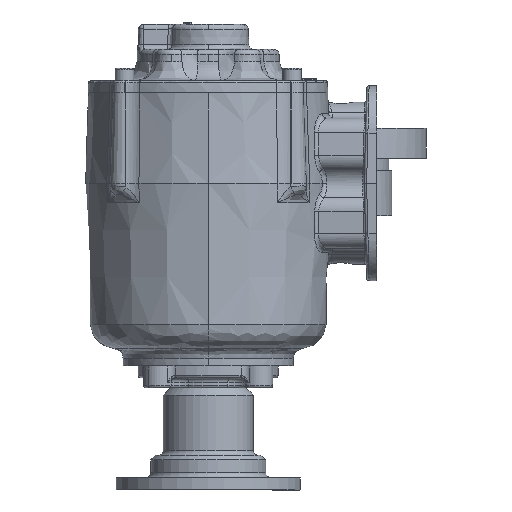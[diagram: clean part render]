
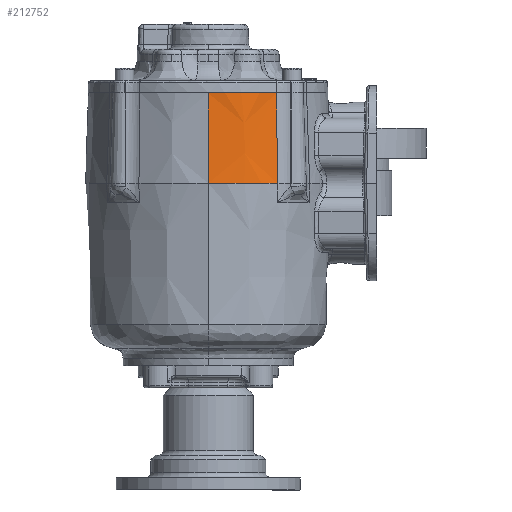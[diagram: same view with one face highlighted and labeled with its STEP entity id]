
A CAD part, left-side view. The second image highlights one B-rep face of the part: STEP entity #212752.
In plain terms, the highlighted conical face has half-angle 2 degrees and reference radius 78.232 mm.
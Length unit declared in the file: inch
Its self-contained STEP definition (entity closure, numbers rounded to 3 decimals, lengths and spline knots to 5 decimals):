
#3126 = CARTESIAN_POINT ( 'NONE',  ( -0.95267, 1.86514, 0.34734 ) ) ;
#5770 = CARTESIAN_POINT ( 'NONE',  ( -3.58087, 0.40873, 2.61184 ) ) ;
#9161 = CARTESIAN_POINT ( 'NONE',  ( -3.95359, 1.71328, 2.61184 ) ) ;
#32122 = DIRECTION ( 'NONE',  ( 1., 0., 0. ) ) ;
#35730 = VERTEX_POINT ( 'NONE', #222964 ) ;
#40351 = EDGE_LOOP ( 'NONE', ( #157098, #96952, #191431, #200472 ) ) ;
#40878 = DIRECTION ( 'NONE',  ( -1., 0., 0. ) ) ;
#43505 = CARTESIAN_POINT ( 'NONE',  ( -3.8961, 1.26118, 2.61184 ) ) ;
#44632 = CARTESIAN_POINT ( 'NONE',  ( -3.86172, 1.11281, 2.61184 ) ) ;
#72983 = DIRECTION ( 'NONE',  ( 0., 0., -1. ) ) ;
#74146 = CARTESIAN_POINT ( 'NONE',  ( -3.46942, 0.13709, 1.12355 ) ) ;
#92480 = VERTEX_POINT ( 'NONE', #170999 ) ;
#96952 = ORIENTED_EDGE ( 'NONE', *, *, #199139, .T. ) ;
#111925 = AXIS2_PLACEMENT_3D ( 'NONE', #3126, #72983, #40878 ) ;
#113262 = CARTESIAN_POINT ( 'NONE',  ( -3.94204, 1.56141, 2.61184 ) ) ;
#114397 = CARTESIAN_POINT ( 'NONE',  ( -3.95359, 1.86514, 2.61184 ) ) ;
#121348 = DIRECTION ( 'NONE',  ( 0., 0., -1. ) ) ;
#122753 = CARTESIAN_POINT ( 'NONE',  ( -4.03267, 1.86514, 0.34734 ) ) ;
#126742 = CARTESIAN_POINT ( 'NONE',  ( -3.44291, 0.14507, 1.87838 ) ) ;
#127470 = EDGE_CURVE ( 'NONE', #35730, #92480, #208458, .T. ) ;
#130436 = CARTESIAN_POINT ( 'NONE',  ( -3.7709, 0.82297, 2.61184 ) ) ;
#147611 = CARTESIAN_POINT ( 'NONE',  ( -3.41704, 0.15272, 2.61184 ) ) ;
#154664 = CARTESIAN_POINT ( 'NONE',  ( -4.03267, 1.86514, 0.34734 ) ) ;
#154800 = LINE ( 'NONE', #122753, #205529 ) ;
#157098 = ORIENTED_EDGE ( 'NONE', *, *, #127470, .T. ) ;
#162524 = CARTESIAN_POINT ( 'NONE',  ( -3.5037, 0.27743, 2.61184 ) ) ;
#164410 = VERTEX_POINT ( 'NONE', #154664 ) ;
#169154 = CARTESIAN_POINT ( 'NONE',  ( -3.49656, 0.12877, 0.34734 ) ) ;
#170999 = CARTESIAN_POINT ( 'NONE',  ( -3.95359, 1.86514, 2.61184 ) ) ;
#175084 = CARTESIAN_POINT ( 'NONE',  ( -0.95267, 1.86514, 0.34734 ) ) ;
#175925 = FACE_OUTER_BOUND ( 'NONE', #40351, .T. ) ;
#177555 = AXIS2_PLACEMENT_3D ( 'NONE', #175084, #121348, #32122 ) ;
#179799 = EDGE_CURVE ( 'NONE', #222117, #35730, #210144, .T. ) ;
#191431 = ORIENTED_EDGE ( 'NONE', *, *, #212254, .F. ) ;
#196516 = CARTESIAN_POINT ( 'NONE',  ( -3.41704, 0.15272, 2.61184 ) ) ;
#199139 = EDGE_CURVE ( 'NONE', #92480, #164410, #154800, .T. ) ;
#200472 = ORIENTED_EDGE ( 'NONE', *, *, #179799, .T. ) ;
#205529 = VECTOR ( 'NONE', #206328, 39.37008 ) ;
#206328 = DIRECTION ( 'NONE',  ( -0.035, 0., -0.999 ) ) ;
#208458 = B_SPLINE_CURVE_WITH_KNOTS ( 'NONE', 3,
 ( #147611, #162524, #5770, #217419, #130436, #44632, #43505, #113262, #9161, #114397 ),
 .UNSPECIFIED., .F., .F.,
 ( 4, 2, 2, 2, 4 ),
 ( 0., 0.25, 0.5, 0.75, 1. ),
 .UNSPECIFIED. ) ;
#210144 = B_SPLINE_CURVE_WITH_KNOTS ( 'NONE', 3,
 ( #211422, #74146, #126742, #196516 ),
 .UNSPECIFIED., .F., .F.,
 ( 4, 4 ),
 ( 0., 1. ),
 .UNSPECIFIED. ) ;
#210581 = CONICAL_SURFACE ( 'NONE', #111925, 3.08, 0.035 ) ;
#211422 = CARTESIAN_POINT ( 'NONE',  ( -3.49656, 0.12877, 0.34734 ) ) ;
#212254 = EDGE_CURVE ( 'NONE', #222117, #164410, #225110, .T. ) ;
#212752 = ADVANCED_FACE ( 'NONE', ( #175925 ), #210581, .T. ) ;
#217419 = CARTESIAN_POINT ( 'NONE',  ( -3.71447, 0.6815, 2.61184 ) ) ;
#222117 = VERTEX_POINT ( 'NONE', #169154 ) ;
#222964 = CARTESIAN_POINT ( 'NONE',  ( -3.41704, 0.15272, 2.61184 ) ) ;
#225110 = CIRCLE ( 'NONE', #177555, 3.08 ) ;
